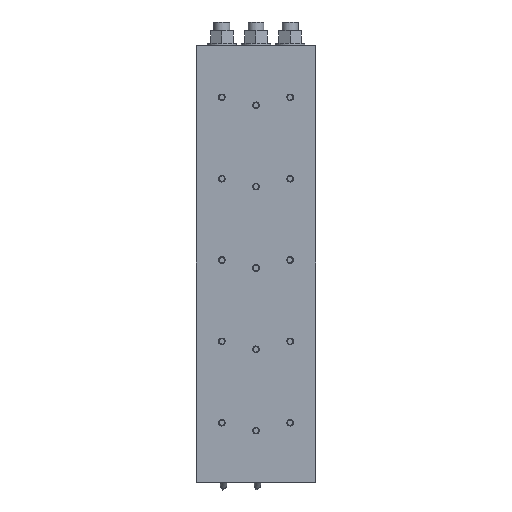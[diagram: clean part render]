
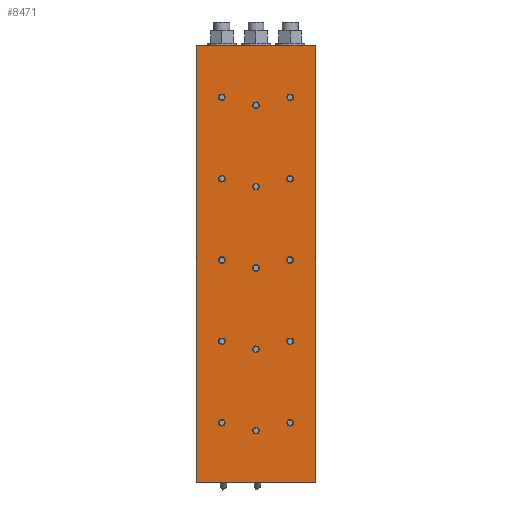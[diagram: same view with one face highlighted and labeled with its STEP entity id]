
A CAD part, top view. The second image highlights one B-rep face of the part: STEP entity #8471.
In plain terms, the highlighted planar face has unit normal (0, 0, 1).
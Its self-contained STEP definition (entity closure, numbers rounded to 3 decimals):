
#592=LINE('',#14791,#1080);
#595=LINE('',#14797,#1083);
#598=LINE('',#14803,#1086);
#601=LINE('',#14808,#1089);
#1080=VECTOR('',#12440,1000.);
#1083=VECTOR('',#12445,1000.);
#1086=VECTOR('',#12450,1000.);
#1089=VECTOR('',#12455,1000.);
#1611=PLANE('',#10039);
#3543=ORIENTED_EDGE('',*,*,#4580,.F.);
#3544=ORIENTED_EDGE('',*,*,#4581,.F.);
#3545=ORIENTED_EDGE('',*,*,#4582,.F.);
#3546=ORIENTED_EDGE('',*,*,#4583,.F.);
#3547=ORIENTED_EDGE('',*,*,#4584,.F.);
#3548=ORIENTED_EDGE('',*,*,#4585,.F.);
#3549=ORIENTED_EDGE('',*,*,#4586,.F.);
#3550=ORIENTED_EDGE('',*,*,#4587,.F.);
#3551=ORIENTED_EDGE('',*,*,#4588,.F.);
#3552=ORIENTED_EDGE('',*,*,#4589,.F.);
#3553=ORIENTED_EDGE('',*,*,#4590,.F.);
#3554=ORIENTED_EDGE('',*,*,#4591,.F.);
#3555=ORIENTED_EDGE('',*,*,#4592,.F.);
#3556=ORIENTED_EDGE('',*,*,#4593,.F.);
#3557=ORIENTED_EDGE('',*,*,#4594,.F.);
#3558=ORIENTED_EDGE('',*,*,#4570,.F.);
#3559=ORIENTED_EDGE('',*,*,#4579,.F.);
#3560=ORIENTED_EDGE('',*,*,#4576,.F.);
#3561=ORIENTED_EDGE('',*,*,#4573,.F.);
#4570=EDGE_CURVE('',#5354,#5355,#592,.T.);
#4573=EDGE_CURVE('',#5355,#5357,#595,.T.);
#4576=EDGE_CURVE('',#5357,#5359,#598,.T.);
#4579=EDGE_CURVE('',#5359,#5354,#601,.T.);
#4580=EDGE_CURVE('',#5360,#5360,#5706,.T.);
#4581=EDGE_CURVE('',#5361,#5361,#5707,.T.);
#4582=EDGE_CURVE('',#5362,#5362,#5708,.T.);
#4583=EDGE_CURVE('',#5363,#5363,#5709,.T.);
#4584=EDGE_CURVE('',#5364,#5364,#5710,.T.);
#4585=EDGE_CURVE('',#5365,#5365,#5711,.T.);
#4586=EDGE_CURVE('',#5366,#5366,#5712,.T.);
#4587=EDGE_CURVE('',#5367,#5367,#5713,.T.);
#4588=EDGE_CURVE('',#5368,#5368,#5714,.T.);
#4589=EDGE_CURVE('',#5369,#5369,#5715,.T.);
#4590=EDGE_CURVE('',#5370,#5370,#5716,.T.);
#4591=EDGE_CURVE('',#5371,#5371,#5717,.T.);
#4592=EDGE_CURVE('',#5372,#5372,#5718,.T.);
#4593=EDGE_CURVE('',#5373,#5373,#5719,.T.);
#4594=EDGE_CURVE('',#5374,#5374,#5720,.T.);
#5354=VERTEX_POINT('',#14790);
#5355=VERTEX_POINT('',#14792);
#5357=VERTEX_POINT('',#14798);
#5359=VERTEX_POINT('',#14804);
#5360=VERTEX_POINT('',#14811);
#5361=VERTEX_POINT('',#14813);
#5362=VERTEX_POINT('',#14815);
#5363=VERTEX_POINT('',#14817);
#5364=VERTEX_POINT('',#14819);
#5365=VERTEX_POINT('',#14821);
#5366=VERTEX_POINT('',#14823);
#5367=VERTEX_POINT('',#14825);
#5368=VERTEX_POINT('',#14827);
#5369=VERTEX_POINT('',#14829);
#5370=VERTEX_POINT('',#14831);
#5371=VERTEX_POINT('',#14833);
#5372=VERTEX_POINT('',#14835);
#5373=VERTEX_POINT('',#14837);
#5374=VERTEX_POINT('',#14839);
#5706=CIRCLE('',#10040,4.188);
#5707=CIRCLE('',#10041,4.188);
#5708=CIRCLE('',#10042,4.188);
#5709=CIRCLE('',#10043,4.188);
#5710=CIRCLE('',#10044,4.188);
#5711=CIRCLE('',#10045,4.188);
#5712=CIRCLE('',#10046,4.188);
#5713=CIRCLE('',#10047,4.188);
#5714=CIRCLE('',#10048,4.188);
#5715=CIRCLE('',#10049,4.188);
#5716=CIRCLE('',#10050,4.188);
#5717=CIRCLE('',#10051,4.188);
#5718=CIRCLE('',#10052,4.188);
#5719=CIRCLE('',#10053,4.188);
#5720=CIRCLE('',#10054,4.188);
#6697=EDGE_LOOP('',(#3543));
#6698=EDGE_LOOP('',(#3544));
#6699=EDGE_LOOP('',(#3545));
#6700=EDGE_LOOP('',(#3546));
#6701=EDGE_LOOP('',(#3547));
#6702=EDGE_LOOP('',(#3548));
#6703=EDGE_LOOP('',(#3549));
#6704=EDGE_LOOP('',(#3550));
#6705=EDGE_LOOP('',(#3551));
#6706=EDGE_LOOP('',(#3552));
#6707=EDGE_LOOP('',(#3553));
#6708=EDGE_LOOP('',(#3554));
#6709=EDGE_LOOP('',(#3555));
#6710=EDGE_LOOP('',(#3556));
#6711=EDGE_LOOP('',(#3557));
#6712=EDGE_LOOP('',(#3558,#3559,#3560,#3561));
#7769=FACE_BOUND('',#6697,.T.);
#7770=FACE_BOUND('',#6698,.T.);
#7771=FACE_BOUND('',#6699,.T.);
#7772=FACE_BOUND('',#6700,.T.);
#7773=FACE_BOUND('',#6701,.T.);
#7774=FACE_BOUND('',#6702,.T.);
#7775=FACE_BOUND('',#6703,.T.);
#7776=FACE_BOUND('',#6704,.T.);
#7777=FACE_BOUND('',#6705,.T.);
#7778=FACE_BOUND('',#6706,.T.);
#7779=FACE_BOUND('',#6707,.T.);
#7780=FACE_BOUND('',#6708,.T.);
#7781=FACE_BOUND('',#6709,.T.);
#7782=FACE_BOUND('',#6710,.T.);
#7783=FACE_BOUND('',#6711,.T.);
#7784=FACE_BOUND('',#6712,.T.);
#8471=ADVANCED_FACE('',(#7769,#7770,#7771,#7772,#7773,#7774,#7775,#7776,
#7777,#7778,#7779,#7780,#7781,#7782,#7783,#7784),#1611,.F.);
#10039=AXIS2_PLACEMENT_3D('',#14809,#12456,#12457);
#10040=AXIS2_PLACEMENT_3D('',#14810,#12458,#12459);
#10041=AXIS2_PLACEMENT_3D('',#14812,#12460,#12461);
#10042=AXIS2_PLACEMENT_3D('',#14814,#12462,#12463);
#10043=AXIS2_PLACEMENT_3D('',#14816,#12464,#12465);
#10044=AXIS2_PLACEMENT_3D('',#14818,#12466,#12467);
#10045=AXIS2_PLACEMENT_3D('',#14820,#12468,#12469);
#10046=AXIS2_PLACEMENT_3D('',#14822,#12470,#12471);
#10047=AXIS2_PLACEMENT_3D('',#14824,#12472,#12473);
#10048=AXIS2_PLACEMENT_3D('',#14826,#12474,#12475);
#10049=AXIS2_PLACEMENT_3D('',#14828,#12476,#12477);
#10050=AXIS2_PLACEMENT_3D('',#14830,#12478,#12479);
#10051=AXIS2_PLACEMENT_3D('',#14832,#12480,#12481);
#10052=AXIS2_PLACEMENT_3D('',#14834,#12482,#12483);
#10053=AXIS2_PLACEMENT_3D('',#14836,#12484,#12485);
#10054=AXIS2_PLACEMENT_3D('',#14838,#12486,#12487);
#12440=DIRECTION('',(-1.,0.,0.));
#12445=DIRECTION('',(0.,1.,0.));
#12450=DIRECTION('',(1.,0.,0.));
#12455=DIRECTION('',(0.,-1.,0.));
#12456=DIRECTION('',(0.,0.,-1.));
#12457=DIRECTION('',(-1.,0.,0.));
#12458=DIRECTION('',(0.,0.,1.));
#12459=DIRECTION('',(1.,0.,0.));
#12460=DIRECTION('',(0.,0.,1.));
#12461=DIRECTION('',(1.,0.,0.));
#12462=DIRECTION('',(0.,0.,1.));
#12463=DIRECTION('',(1.,0.,0.));
#12464=DIRECTION('',(0.,0.,1.));
#12465=DIRECTION('',(1.,0.,0.));
#12466=DIRECTION('',(0.,0.,1.));
#12467=DIRECTION('',(1.,0.,0.));
#12468=DIRECTION('',(0.,0.,1.));
#12469=DIRECTION('',(1.,0.,0.));
#12470=DIRECTION('',(0.,0.,1.));
#12471=DIRECTION('',(1.,0.,0.));
#12472=DIRECTION('',(0.,0.,1.));
#12473=DIRECTION('',(1.,0.,0.));
#12474=DIRECTION('',(0.,0.,1.));
#12475=DIRECTION('',(1.,0.,0.));
#12476=DIRECTION('',(0.,0.,1.));
#12477=DIRECTION('',(1.,0.,0.));
#12478=DIRECTION('',(0.,0.,1.));
#12479=DIRECTION('',(1.,0.,0.));
#12480=DIRECTION('',(0.,0.,1.));
#12481=DIRECTION('',(1.,0.,0.));
#12482=DIRECTION('',(0.,0.,1.));
#12483=DIRECTION('',(1.,0.,0.));
#12484=DIRECTION('',(0.,0.,1.));
#12485=DIRECTION('',(1.,0.,0.));
#12486=DIRECTION('',(0.,0.,1.));
#12487=DIRECTION('',(1.,0.,0.));
#14790=CARTESIAN_POINT('',(153.51,0.398,20.));
#14791=CARTESIAN_POINT('',(150.,0.398,20.));
#14792=CARTESIAN_POINT('',(3.51,0.398,20.));
#14797=CARTESIAN_POINT('',(3.51,0.,20.));
#14798=CARTESIAN_POINT('',(3.51,550.398,20.));
#14803=CARTESIAN_POINT('',(0.,550.398,20.));
#14804=CARTESIAN_POINT('',(153.51,550.398,20.));
#14808=CARTESIAN_POINT('',(153.51,550.,20.));
#14809=CARTESIAN_POINT('',(0.,0.,20.));
#14810=CARTESIAN_POINT('',(78.51,475.4,20.));
#14811=CARTESIAN_POINT('',(82.698,475.4,20.));
#14812=CARTESIAN_POINT('',(78.51,372.9,20.));
#14813=CARTESIAN_POINT('',(82.698,372.9,20.));
#14814=CARTESIAN_POINT('',(78.51,270.4,20.));
#14815=CARTESIAN_POINT('',(82.698,270.4,20.));
#14816=CARTESIAN_POINT('',(78.51,167.9,20.));
#14817=CARTESIAN_POINT('',(82.698,167.9,20.));
#14818=CARTESIAN_POINT('',(78.51,65.4,20.));
#14819=CARTESIAN_POINT('',(82.698,65.4,20.));
#14820=CARTESIAN_POINT('',(121.51,75.398,20.));
#14821=CARTESIAN_POINT('',(125.698,75.398,20.));
#14822=CARTESIAN_POINT('',(121.51,177.898,20.));
#14823=CARTESIAN_POINT('',(125.698,177.898,20.));
#14824=CARTESIAN_POINT('',(121.51,280.398,20.));
#14825=CARTESIAN_POINT('',(125.698,280.398,20.));
#14826=CARTESIAN_POINT('',(121.51,382.898,20.));
#14827=CARTESIAN_POINT('',(125.698,382.898,20.));
#14828=CARTESIAN_POINT('',(121.51,485.398,20.));
#14829=CARTESIAN_POINT('',(125.698,485.398,20.));
#14830=CARTESIAN_POINT('',(35.51,485.398,20.));
#14831=CARTESIAN_POINT('',(39.698,485.398,20.));
#14832=CARTESIAN_POINT('',(35.51,382.898,20.));
#14833=CARTESIAN_POINT('',(39.698,382.898,20.));
#14834=CARTESIAN_POINT('',(35.51,280.398,20.));
#14835=CARTESIAN_POINT('',(39.698,280.398,20.));
#14836=CARTESIAN_POINT('',(35.51,177.898,20.));
#14837=CARTESIAN_POINT('',(39.698,177.898,20.));
#14838=CARTESIAN_POINT('',(35.51,75.398,20.));
#14839=CARTESIAN_POINT('',(39.698,75.398,20.));
